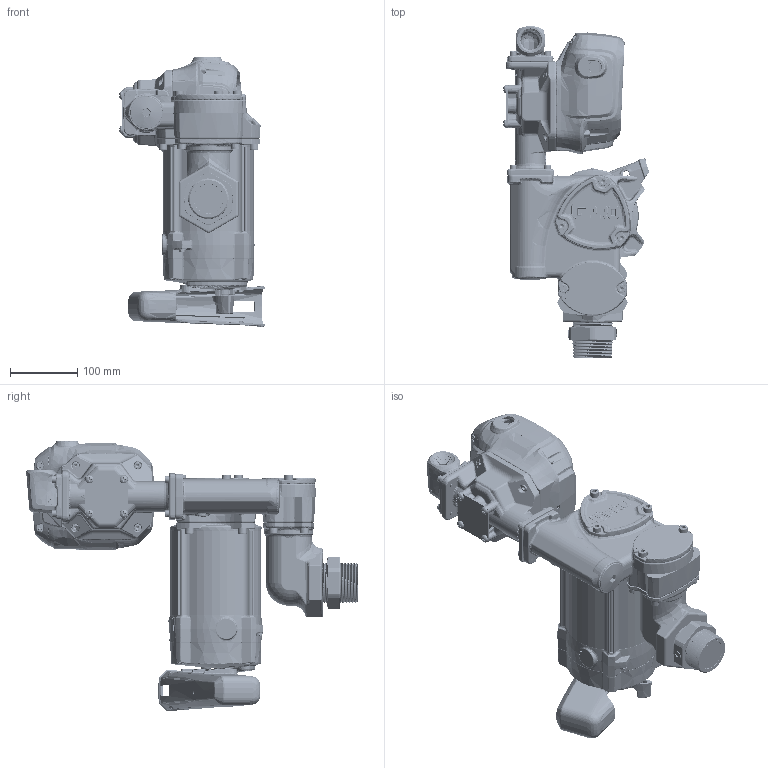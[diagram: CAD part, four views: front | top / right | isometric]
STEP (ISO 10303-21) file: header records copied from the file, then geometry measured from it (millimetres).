
FILE_DESCRIPTION(/* description */ (''),/* implementation_level */ '2;1');
FILE_NAME(/* name */ 'V20-QM40 Combo_WEB.stp',/* time_stamp */ '2023-09-20T13:56:29-05:00',/* author */ ('gdanhar'),/* organization */ (''),/* preprocessor_version */ 'ST-DEVELOPER v19.2',/* originating_system */ 'Autodesk Inventor 2024',/* authorisation */ '');
FILE_SCHEMA (('AUTOMOTIVE_DESIGN { 1 0 10303 214 3 1 1 }'));
Length unit declared in the file: inch
Products named in the file (5): V20-QM40 Combo_WEB; V20-115; QM40_Modular; 162205-01; 904009-03
Assembly tree (11 placements, depth 2):
  V20-QM40 Combo_WEB
    V20-115
    QM40_Modular
    162205-01
    904009-03  x8
Bounding box: 216.04 x 491.68 x 400.85 mm (x, y, z)
Volume: 6772464.8 mm3; surface area: 756343.8 mm2
Topology: 17 solids, 127 shells, 13301 faces, 33531 edges, 20578 vertices
Faces by surface type: bspline 5427, plane 3169, cylinder 2516, torus 947, cone 746, sphere 496
Full cylindrical faces by diameter (mm): 2.962 x14, 2.989 x6, 3.302 x4, 3.454 x2, 3.68 x1, 4 x24, 4.826 x1, 4.917 x6, 4.978 x9, 5 x1, 5.001 x10, 5.781 x1, 5.838 x1, 5.842 x6, 5.994 x19, 6 x62, 6.078 x18, 6.093 x27, 6.35 x4, 6.5 x4, 6.756 x13, 7 x4, 8 x15, 8.407 x3, 8.992 x4, 9.487 x1, 9.525 x6, 9.906 x1, 10 x20, 10.5 x2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
Entity records: 827052 total; most frequent: CARTESIAN_POINT 530531, ORIENTED_EDGE 66078, DIRECTION 48548, EDGE_CURVE 33039, VERTEX_POINT 20391, AXIS2_PLACEMENT_3D 20054, EDGE_LOOP 13742, FACE_OUTER_BOUND 13191
